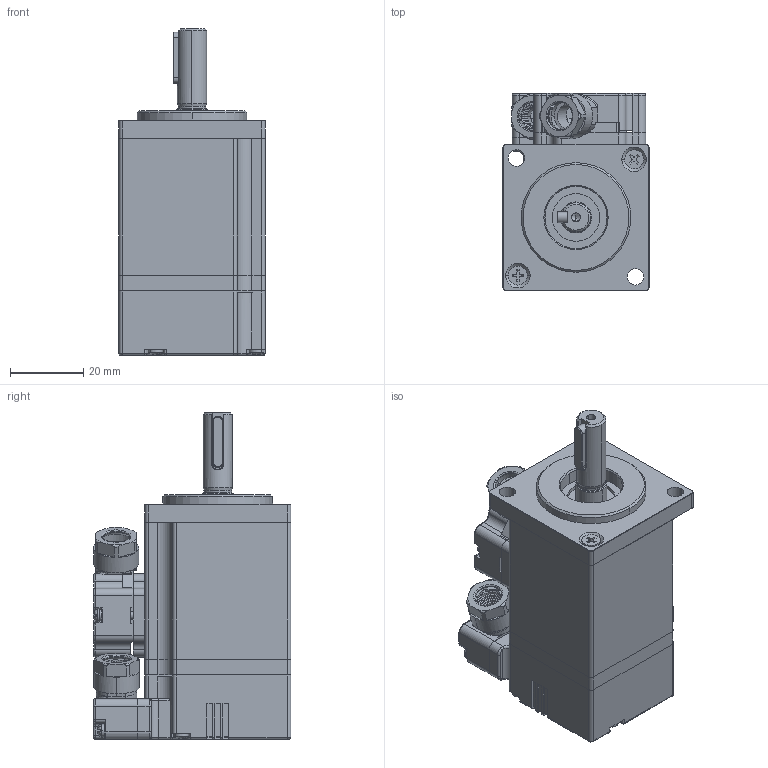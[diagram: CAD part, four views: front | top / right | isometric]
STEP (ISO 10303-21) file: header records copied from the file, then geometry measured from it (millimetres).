
FILE_DESCRIPTION((''),'2;1');
FILE_NAME('MS1H1-05B30CB-A330Z-S_ASM','2019-04-28T14:05:43',('w14852'),(''),'CREO PARAMETRIC BY PTC INC, 2017260','CREO PARAMETRIC BY PTC INC, 2017260','');
FILE_SCHEMA(('CONFIG_CONTROL_DESIGN'));
Products named in the file (88): 31150200-1_4_1_1; 31160257-1_ASM_4_ASM_1_ASM_1_ASM; 31090646_ASM_4_ASM_1_ASM_1_ASM; 22050011-LJ_4_1_1; 31150202-1_4_1_1; 31230078-1_ASM_4_ASM_1_ASM_1_ASM; 31160260-1_ASM_4_ASM_1_ASM_1_ASM; 31090500_ASM_4_ASM_1_ASM_1_ASM; 15110321_4_1_1; 15110321_1_4_1_1; 15110321_2_4_1_1; 15110321_3_4_1_1; 15110321_4_4_1_1; 15110321_5_4_1_1; 15110321_6_4_1_1; 15110321_8_4_1_1; 15110321_ASM_4_ASM_1_ASM_1_ASM; 22060548-LJ_4_1_1; 22060786_4_1_1; 31010447_ASM_4_ASM_1_ASM_1_ASM; 31070502_4_1_1; 31040366_ASM_4_ASM_1_ASM_1_ASM; 31150201-1_4_1_1; 31160256-1_ASM_4_ASM_1_ASM_1_ASM; 31090645_ASM_4_ASM_1_ASM_1_ASM; 31100105_4_1_1; 31100213_4_1_1; 31100213_1_4_1_1; 31100213_2_4_1_1; 31100213_ASM_4_ASM_1_ASM_1_ASM; 22060797_4_1_1; 15048982_4_1_1; 15048982_1_4_1_1; 15048982_2_4_1_1; 15048982_3_4_1_1; 15048982_4_4_1_1; 15048982_5_4_1_1; 15048982_6_4_1_1; 15048982_7_4_1_1; 15048982_8_4_1_1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
Assembly tree (94 placements, depth 9):
  MS1H1-05B30CB-A330Z-S_ASM
    MS1H1-05B30CB-A330Z-S_ASM_1_ASM
      MS1H1-05B30CB-A330Z-S_ASM_1_ASM_ASM
        01110856_ASM_4_ASM_1_ASM_1_ASM
          31010447_ASM_4_ASM_1_ASM_1_ASM
            31090646_ASM_4_ASM_1_ASM_1_ASM
              31160257-1_ASM_4_ASM_1_ASM_1_ASM
                31150200-1_4_1_1
            22050011-LJ_4_1_1  x2
            31090500_ASM_4_ASM_1_ASM_1_ASM
              31160260-1_ASM_4_ASM_1_ASM_1_ASM
                31230078-1_ASM_4_ASM_1_ASM_1_ASM
                  31150202-1_4_1_1
            15110321_ASM_4_ASM_1_ASM_1_ASM
              15110321_4_1_1
              15110321_1_4_1_1
              15110321_2_4_1_1
              15110321_3_4_1_1
              15110321_4_4_1_1
              15110321_5_4_1_1
              15110321_6_4_1_1
              15110321_8_4_1_1
            22060548-LJ_4_1_1  x2
            22060786_4_1_1
          31040366_ASM_4_ASM_1_ASM_1_ASM
            31070502_4_1_1
          31090645_ASM_4_ASM_1_ASM_1_ASM
            31160256-1_ASM_4_ASM_1_ASM_1_ASM
              31150201-1_4_1_1
          31100105_4_1_1
          22050011-LJ_4_1_1  x2
          31100213_ASM_4_ASM_1_ASM_1_ASM
            31100213_4_1_1
            31100213_1_4_1_1
            31100213_2_4_1_1
          22060797_4_1_1  x4
          15048982_ASM_4_ASM_1_ASM_1_ASM
            15048982_4_1_1
            15048982_1_4_1_1
            15048982_2_4_1_1
            15048982_3_4_1_1
            15048982_4_4_1_1
            15048982_5_4_1_1
            15048982_6_4_1_1
            15048982_7_4_1_1
            15048982_8_4_1_1
            15048982_9_4_1_1
            15048982_10_4_1_1
            15048982_11_4_1_1
            15048982_12_4_1_1
            15048982_13_4_1_1
            15048982_14_4_1_1
            15048982_15_4_1_1
            15048982_16_4_1_1
            15048982_17_4_1_1
            15048982_18_4_1_1
            15048982_19_4_1_1
            15048982_20_4_1_1
            15048982_21_4_1_1
            15048982_22_4_1_1
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Bounding box: 40 x 54.1 x 89.4 mm (x, y, z)
Volume: 113598.2 mm3; surface area: 43149 mm2
Topology: 71 solids, 87 shells, 3358 faces, 9124 edges, 5986 vertices
Faces by surface type: plane 2077, cylinder 893, bspline 116, cone 109, torus 108, extrusion 39, sphere 16
Entity records: 109737 total; most frequent: CARTESIAN_POINT 26602, ORIENTED_EDGE 17142, DIRECTION 16985, EDGE_CURVE 8643, VECTOR 5711, VERTEX_POINT 5691, LINE 5672, AXIS2_PLACEMENT_3D 5637
